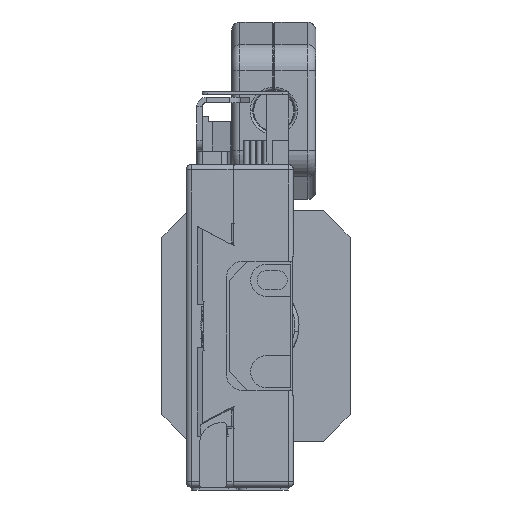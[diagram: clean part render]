
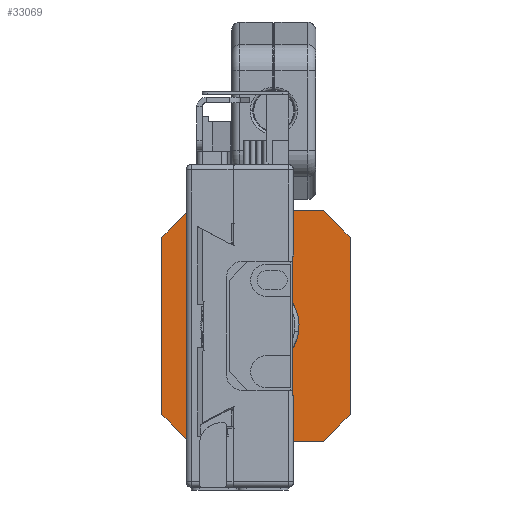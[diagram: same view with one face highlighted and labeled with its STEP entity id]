
A CAD part, left-side view. The second image highlights one B-rep face of the part: STEP entity #33069.
In plain terms, the highlighted planar face has unit normal (-1, 0, 0).
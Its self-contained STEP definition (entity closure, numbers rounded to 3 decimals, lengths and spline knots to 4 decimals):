
#2830 = EDGE_CURVE ( 'NONE', #74353, #83489, #56214, .T. ) ;
#3146 = ORIENTED_EDGE ( 'NONE', *, *, #29334, .T. ) ;
#3214 = AXIS2_PLACEMENT_3D ( 'NONE', #61621, #63332, #61710 ) ;
#3478 = EDGE_CURVE ( 'NONE', #77475, #15277, #80707, .T. ) ;
#4018 = PLANE ( 'NONE',  #25049 ) ;
#4408 = VECTOR ( 'NONE', #52393, 100. ) ;
#4602 = VECTOR ( 'NONE', #63170, 100. ) ;
#5358 = EDGE_CURVE ( 'NONE', #30291, #64327, #11639, .T. ) ;
#6375 = VERTEX_POINT ( 'NONE', #12270 ) ;
#6615 = EDGE_CURVE ( 'NONE', #64327, #30291, #27113, .T. ) ;
#6662 = EDGE_LOOP ( 'NONE', ( #28077, #28952 ) ) ;
#7808 = CIRCLE ( 'NONE', #46879, 0.3 ) ;
#8236 = VERTEX_POINT ( 'NONE', #45456 ) ;
#11315 = EDGE_LOOP ( 'NONE', ( #28642, #35363 ) ) ;
#11618 = CARTESIAN_POINT ( 'NONE',  ( 11.1452, 1.0437, 2.9038 ) ) ;
#11639 = CIRCLE ( 'NONE', #3214, 0.3 ) ;
#11685 = DIRECTION ( 'NONE',  ( 0., 0.707, -0.707 ) ) ;
#12129 = EDGE_CURVE ( 'NONE', #75648, #19892, #20711, .T. ) ;
#12270 = CARTESIAN_POINT ( 'NONE',  ( 11.1452, 0.5864, 4.4892 ) ) ;
#12992 = CARTESIAN_POINT ( 'NONE',  ( 11.1452, 2.2937, 0.7538 ) ) ;
#14141 = ORIENTED_EDGE ( 'NONE', *, *, #66471, .F. ) ;
#15277 = VERTEX_POINT ( 'NONE', #88730 ) ;
#18716 = EDGE_CURVE ( 'NONE', #37443, #62646, #24304, .T. ) ;
#19086 = DIRECTION ( 'NONE',  ( 0., 0., 1. ) ) ;
#19427 = CARTESIAN_POINT ( 'NONE',  ( 11.1452, 0.7937, -0.7462 ) ) ;
#19892 = VERTEX_POINT ( 'NONE', #33079 ) ;
#20467 = CARTESIAN_POINT ( 'NONE',  ( 11.1452, -0.4563, 1.0038 ) ) ;
#20564 = AXIS2_PLACEMENT_3D ( 'NONE', #67361, #22611, #74907 ) ;
#20711 = LINE ( 'NONE', #55625, #58148 ) ;
#22611 = DIRECTION ( 'NONE',  ( -1., 0., 0. ) ) ;
#24190 = CARTESIAN_POINT ( 'NONE',  ( 11.1452, 2.7937, 0.7538 ) ) ;
#24304 = LINE ( 'NONE', #71839, #4602 ) ;
#25049 = AXIS2_PLACEMENT_3D ( 'NONE', #33844, #86262, #41363 ) ;
#25672 = ORIENTED_EDGE ( 'NONE', *, *, #2830, .T. ) ;
#26901 = DIRECTION ( 'NONE',  ( 0., -0.707, -0.707 ) ) ;
#27113 = CIRCLE ( 'NONE', #79018, 0.3 ) ;
#28077 = ORIENTED_EDGE ( 'NONE', *, *, #3478, .F. ) ;
#28642 = ORIENTED_EDGE ( 'NONE', *, *, #6615, .F. ) ;
#28952 = ORIENTED_EDGE ( 'NONE', *, *, #32116, .F. ) ;
#29334 = EDGE_CURVE ( 'NONE', #62646, #75648, #76791, .T. ) ;
#30291 = VERTEX_POINT ( 'NONE', #54243 ) ;
#32116 = EDGE_CURVE ( 'NONE', #15277, #77475, #72890, .T. ) ;
#33069 = ADVANCED_FACE ( 'NONE', ( #40107, #37762, #55359, #35437 ), #4018, .T. ) ;
#33079 = CARTESIAN_POINT ( 'NONE',  ( 11.1452, -0.7063, 4.5538 ) ) ;
#33639 = CARTESIAN_POINT ( 'NONE',  ( 11.1452, 0.8637, 4.6038 ) ) ;
#33844 = CARTESIAN_POINT ( 'NONE',  ( 11.1452, -0.7063, 0.7538 ) ) ;
#34372 = LINE ( 'NONE', #24190, #91763 ) ;
#34598 = DIRECTION ( 'NONE',  ( 0., 0., 1. ) ) ;
#35363 = ORIENTED_EDGE ( 'NONE', *, *, #5358, .F. ) ;
#35437 = FACE_BOUND ( 'NONE', #6662, .T. ) ;
#36983 = CARTESIAN_POINT ( 'NONE',  ( 11.1452, -0.7063, 1.2538 ) ) ;
#37443 = VERTEX_POINT ( 'NONE', #12992 ) ;
#37762 = FACE_BOUND ( 'NONE', #81961, .T. ) ;
#40107 = FACE_OUTER_BOUND ( 'NONE', #70615, .T. ) ;
#40542 = VECTOR ( 'NONE', #26901, 100. ) ;
#41171 = DIRECTION ( 'NONE',  ( 0., 0., 1. ) ) ;
#41363 = DIRECTION ( 'NONE',  ( 0., -1., 0. ) ) ;
#45456 = CARTESIAN_POINT ( 'NONE',  ( 11.1452, 2.7937, 4.5538 ) ) ;
#45503 = ORIENTED_EDGE ( 'NONE', *, *, #80655, .T. ) ;
#46331 = DIRECTION ( 'NONE',  ( -1., 0., 0. ) ) ;
#46879 = AXIS2_PLACEMENT_3D ( 'NONE', #33639, #86079, #41171 ) ;
#47134 = VERTEX_POINT ( 'NONE', #60612 ) ;
#49281 = CARTESIAN_POINT ( 'NONE',  ( 11.1452, -0.2063, 5.0538 ) ) ;
#50724 = DIRECTION ( 'NONE',  ( 0., 0., 1. ) ) ;
#51580 = EDGE_CURVE ( 'NONE', #8236, #87749, #34372, .T. ) ;
#51899 = DIRECTION ( 'NONE',  ( -1., 0., 0. ) ) ;
#52393 = DIRECTION ( 'NONE',  ( 0., 0.707, 0.707 ) ) ;
#53626 = ORIENTED_EDGE ( 'NONE', *, *, #90738, .T. ) ;
#54243 = CARTESIAN_POINT ( 'NONE',  ( 11.1452, 0.6019, 1.3503 ) ) ;
#55018 = DIRECTION ( 'NONE',  ( 0., 0., 1. ) ) ;
#55359 = FACE_BOUND ( 'NONE', #11315, .T. ) ;
#55625 = CARTESIAN_POINT ( 'NONE',  ( 11.1452, -0.7063, 0.7538 ) ) ;
#55937 = ORIENTED_EDGE ( 'NONE', *, *, #51580, .T. ) ;
#56214 = LINE ( 'NONE', #94063, #96046 ) ;
#57239 = CARTESIAN_POINT ( 'NONE',  ( 11.1452, 2.7937, 1.2538 ) ) ;
#58148 = VECTOR ( 'NONE', #55018, 100. ) ;
#60612 = CARTESIAN_POINT ( 'NONE',  ( 11.1452, 1.141, 4.7183 ) ) ;
#61230 = AXIS2_PLACEMENT_3D ( 'NONE', #65228, #46331, #34598 ) ;
#61342 = CARTESIAN_POINT ( 'NONE',  ( 11.1452, 0.8637, 1.2038 ) ) ;
#61621 = CARTESIAN_POINT ( 'NONE',  ( 11.1452, 0.8637, 1.2038 ) ) ;
#61650 = VECTOR ( 'NONE', #72742, 100. ) ;
#61710 = DIRECTION ( 'NONE',  ( 0., 0., 1. ) ) ;
#62646 = VERTEX_POINT ( 'NONE', #79517 ) ;
#62876 = LINE ( 'NONE', #19427, #40542 ) ;
#63170 = DIRECTION ( 'NONE',  ( 0., -1., 0. ) ) ;
#63332 = DIRECTION ( 'NONE',  ( -1., 0., 0. ) ) ;
#63881 = DIRECTION ( 'NONE',  ( -1., 0., 0. ) ) ;
#63924 = LINE ( 'NONE', #89721, #4408 ) ;
#63952 = CARTESIAN_POINT ( 'NONE',  ( 11.1452, 2.9437, 4.4038 ) ) ;
#64327 = VERTEX_POINT ( 'NONE', #72801 ) ;
#65228 = CARTESIAN_POINT ( 'NONE',  ( 11.1452, 1.0437, 2.9038 ) ) ;
#65688 = ORIENTED_EDGE ( 'NONE', *, *, #18716, .T. ) ;
#65776 = LINE ( 'NONE', #63952, #83412 ) ;
#66471 = EDGE_CURVE ( 'NONE', #47134, #6375, #85321, .T. ) ;
#67361 = CARTESIAN_POINT ( 'NONE',  ( 11.1452, 0.8637, 4.6038 ) ) ;
#67779 = EDGE_CURVE ( 'NONE', #87749, #37443, #62876, .T. ) ;
#68042 = DIRECTION ( 'NONE',  ( 0., 1., 0. ) ) ;
#68163 = ORIENTED_EDGE ( 'NONE', *, *, #87684, .F. ) ;
#69375 = ORIENTED_EDGE ( 'NONE', *, *, #67779, .T. ) ;
#69583 = CARTESIAN_POINT ( 'NONE',  ( 11.1452, 1.0437, 2.6538 ) ) ;
#70615 = EDGE_LOOP ( 'NONE', ( #25672, #53626, #55937, #69375, #65688, #3146, #74199, #45503 ) ) ;
#71839 = CARTESIAN_POINT ( 'NONE',  ( 11.1452, 2.7937, 0.7538 ) ) ;
#72742 = DIRECTION ( 'NONE',  ( 0., -0.707, 0.707 ) ) ;
#72801 = CARTESIAN_POINT ( 'NONE',  ( 11.1452, 1.1255, 1.0573 ) ) ;
#72890 = CIRCLE ( 'NONE', #92702, 0.25 ) ;
#74199 = ORIENTED_EDGE ( 'NONE', *, *, #12129, .T. ) ;
#74353 = VERTEX_POINT ( 'NONE', #49281 ) ;
#74907 = DIRECTION ( 'NONE',  ( 0., 0., 1. ) ) ;
#75648 = VERTEX_POINT ( 'NONE', #36983 ) ;
#76791 = LINE ( 'NONE', #20467, #61650 ) ;
#77475 = VERTEX_POINT ( 'NONE', #69583 ) ;
#79018 = AXIS2_PLACEMENT_3D ( 'NONE', #61342, #51899, #50724 ) ;
#79517 = CARTESIAN_POINT ( 'NONE',  ( 11.1452, -0.2063, 0.7538 ) ) ;
#80655 = EDGE_CURVE ( 'NONE', #19892, #74353, #63924, .T. ) ;
#80707 = CIRCLE ( 'NONE', #61230, 0.25 ) ;
#81961 = EDGE_LOOP ( 'NONE', ( #14141, #68163 ) ) ;
#83412 = VECTOR ( 'NONE', #11685, 100. ) ;
#83489 = VERTEX_POINT ( 'NONE', #93247 ) ;
#84075 = DIRECTION ( 'NONE',  ( 0., 0., -1. ) ) ;
#85321 = CIRCLE ( 'NONE', #20564, 0.3 ) ;
#86079 = DIRECTION ( 'NONE',  ( -1., 0., 0. ) ) ;
#86262 = DIRECTION ( 'NONE',  ( -1., 0., 0. ) ) ;
#87684 = EDGE_CURVE ( 'NONE', #6375, #47134, #7808, .T. ) ;
#87749 = VERTEX_POINT ( 'NONE', #57239 ) ;
#88730 = CARTESIAN_POINT ( 'NONE',  ( 11.1452, 1.0437, 3.1538 ) ) ;
#89721 = CARTESIAN_POINT ( 'NONE',  ( 11.1452, -2.6063, 2.6538 ) ) ;
#90738 = EDGE_CURVE ( 'NONE', #83489, #8236, #65776, .T. ) ;
#91763 = VECTOR ( 'NONE', #84075, 100. ) ;
#92702 = AXIS2_PLACEMENT_3D ( 'NONE', #11618, #63881, #19086 ) ;
#93247 = CARTESIAN_POINT ( 'NONE',  ( 11.1452, 2.2937, 5.0538 ) ) ;
#94063 = CARTESIAN_POINT ( 'NONE',  ( 11.1452, 2.7937, 5.0538 ) ) ;
#96046 = VECTOR ( 'NONE', #68042, 100. ) ;
